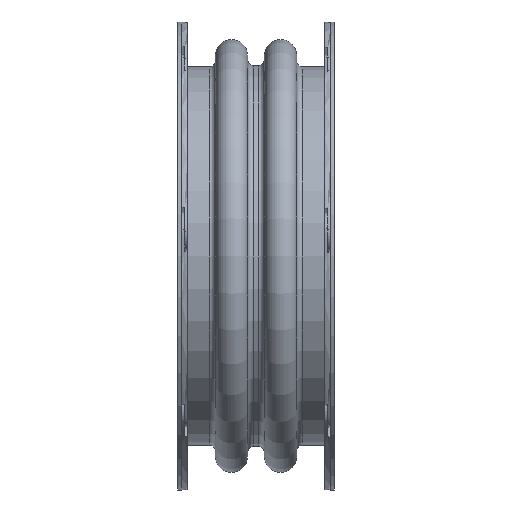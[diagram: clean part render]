
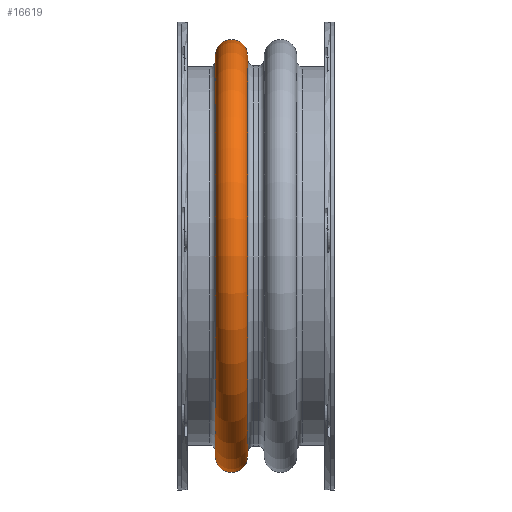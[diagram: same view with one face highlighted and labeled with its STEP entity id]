
A CAD part, front view. The second image highlights one B-rep face of the part: STEP entity #16619.
In plain terms, the highlighted toroidal (fillet/blend) face has major radius 454.025 mm and minor radius 36.513 mm.
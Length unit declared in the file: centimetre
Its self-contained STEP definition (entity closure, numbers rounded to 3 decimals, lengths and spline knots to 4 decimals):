
#279=FACE_BOUND('',#2844,.T.);
#1191=TOROIDAL_SURFACE('',#18329,45.4025,3.6513);
#1689=FACE_OUTER_BOUND('',#2843,.T.);
#2843=EDGE_LOOP('',(#12747));
#2844=EDGE_LOOP('',(#12748));
#5815=CIRCLE('',#18328,45.5235);
#5816=CIRCLE('',#18330,45.5235);
#7345=VERTEX_POINT('',#27795);
#7346=VERTEX_POINT('',#27798);
#9295=EDGE_CURVE('',#7345,#7345,#5815,.T.);
#9296=EDGE_CURVE('',#7346,#7346,#5816,.T.);
#12747=ORIENTED_EDGE('',*,*,#9296,.F.);
#12748=ORIENTED_EDGE('',*,*,#9295,.T.);
#16619=ADVANCED_FACE('',(#1689,#279),#1191,.T.);
#18328=AXIS2_PLACEMENT_3D('',#27796,#22371,#22372);
#18329=AXIS2_PLACEMENT_3D('',#27797,#22373,#22374);
#18330=AXIS2_PLACEMENT_3D('',#27799,#22375,#22376);
#22371=DIRECTION('center_axis',(1.,0.,0.));
#22372=DIRECTION('ref_axis',(0.,0.,-1.));
#22373=DIRECTION('center_axis',(1.,0.,0.));
#22374=DIRECTION('ref_axis',(0.,0.,-1.));
#22375=DIRECTION('center_axis',(1.,0.,0.));
#22376=DIRECTION('ref_axis',(0.,0.,-1.));
#27795=CARTESIAN_POINT('',(-9.2055,45.5235,0.));
#27796=CARTESIAN_POINT('Origin',(-9.2055,0.,
0.));
#27797=CARTESIAN_POINT('Origin',(-5.5563,0.,0.));
#27798=CARTESIAN_POINT('',(-1.907,45.5235,0.));
#27799=CARTESIAN_POINT('Origin',(-1.907,0.,
0.));
